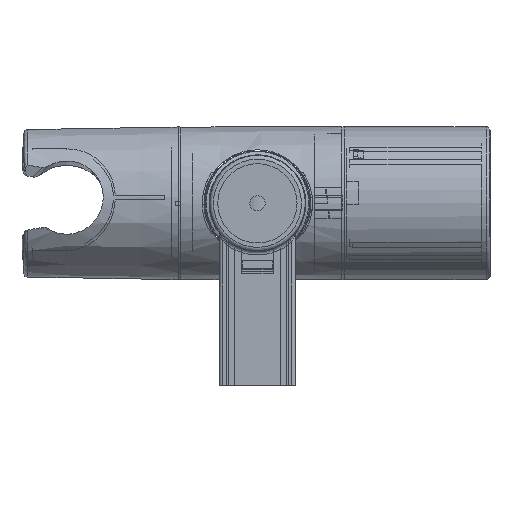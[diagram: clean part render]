
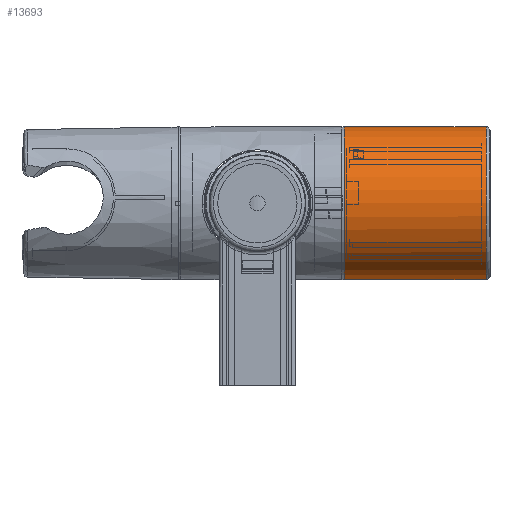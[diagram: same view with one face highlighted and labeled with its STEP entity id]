
A CAD part, front view. The second image highlights one B-rep face of the part: STEP entity #13693.
In plain terms, the highlighted cylindrical face has radius 20 mm (diameter 40 mm), a full revolution.
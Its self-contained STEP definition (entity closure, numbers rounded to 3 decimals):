
#319=B_SPLINE_CURVE_WITH_KNOTS('',3,(#30586,#30587,#30588,#30589,#30590,
#30591,#30592,#30593,#30594,#30595,#30596,#30597,#30598,#30599,#30600,#30601,
#30602,#30603,#30604),.UNSPECIFIED.,.F.,.F.,(4,2,2,2,3,2,2,2,4),(2.5,
2.708,2.917,3.125,3.333,3.542,
3.75,3.958,4.167),.UNSPECIFIED.);
#320=B_SPLINE_CURVE_WITH_KNOTS('',3,(#30605,#30606,#30607,#30608,#30609,
#30610,#30611,#30612,#30613,#30614,#30615,#30616,#30617,#30618,#30619,#30620,
#30621,#30622),.UNSPECIFIED.,.F.,.F.,(4,2,2,2,2,2,2,2,4),(4.167,
4.375,4.583,4.792,5.,5.209,
5.417,5.625,5.834),.UNSPECIFIED.);
#1389=LINE('',#30580,#2524);
#2524=VECTOR('',#18536,20.);
#2844=CYLINDRICAL_SURFACE('',#15021,20.);
#2942=FACE_BOUND('',#4406,.T.);
#3585=FACE_OUTER_BOUND('',#4405,.T.);
#4405=EDGE_LOOP('',(#11995,#11996,#11997,#11998,#11999));
#4406=EDGE_LOOP('',(#12000,#12001));
#5090=CIRCLE('',#15022,20.);
#5091=CIRCLE('',#15023,20.);
#5092=CIRCLE('',#15024,20.);
#6313=VERTEX_POINT('',#30577);
#6314=VERTEX_POINT('',#30579);
#6315=VERTEX_POINT('',#30581);
#6316=VERTEX_POINT('',#30584);
#6317=VERTEX_POINT('',#30585);
#8242=EDGE_CURVE('',#6313,#6313,#5090,.T.);
#8243=EDGE_CURVE('',#6313,#6314,#1389,.T.);
#8244=EDGE_CURVE('',#6315,#6314,#5091,.T.);
#8245=EDGE_CURVE('',#6314,#6315,#5092,.T.);
#8246=EDGE_CURVE('',#6316,#6317,#319,.T.);
#8247=EDGE_CURVE('',#6317,#6316,#320,.T.);
#11995=ORIENTED_EDGE('',*,*,#8242,.F.);
#11996=ORIENTED_EDGE('',*,*,#8243,.T.);
#11997=ORIENTED_EDGE('',*,*,#8244,.F.);
#11998=ORIENTED_EDGE('',*,*,#8245,.F.);
#11999=ORIENTED_EDGE('',*,*,#8243,.F.);
#12000=ORIENTED_EDGE('',*,*,#8246,.F.);
#12001=ORIENTED_EDGE('',*,*,#8247,.F.);
#13693=ADVANCED_FACE('',(#3585,#2942),#2844,.T.);
#15021=AXIS2_PLACEMENT_3D('',#30576,#18532,#18533);
#15022=AXIS2_PLACEMENT_3D('',#30578,#18534,#18535);
#15023=AXIS2_PLACEMENT_3D('',#30582,#18537,#18538);
#15024=AXIS2_PLACEMENT_3D('',#30583,#18539,#18540);
#18532=DIRECTION('center_axis',(-1.,0.,0.));
#18533=DIRECTION('ref_axis',(0.,0.,
-1.));
#18534=DIRECTION('center_axis',(-1.,0.,0.));
#18535=DIRECTION('ref_axis',(0.,0.,
1.));
#18536=DIRECTION('',(1.,0.,0.));
#18537=DIRECTION('center_axis',(1.,0.,0.));
#18538=DIRECTION('ref_axis',(0.,0.,
-1.));
#18539=DIRECTION('center_axis',(1.,0.,0.));
#18540=DIRECTION('ref_axis',(0.,0.,
-1.));
#30576=CARTESIAN_POINT('Origin',(25.65,124.5,36.95));
#30577=CARTESIAN_POINT('',(-14.25,124.5,56.95));
#30578=CARTESIAN_POINT('Origin',(-14.25,124.5,36.95));
#30579=CARTESIAN_POINT('',(22.75,124.5,56.95));
#30580=CARTESIAN_POINT('',(25.65,124.5,56.95));
#30581=CARTESIAN_POINT('',(22.75,124.649,56.949));
#30582=CARTESIAN_POINT('Origin',(22.75,124.5,36.95));
#30583=CARTESIAN_POINT('Origin',(22.75,124.5,36.95));
#30584=CARTESIAN_POINT('',(20.25,144.473,37.997));
#30585=CARTESIAN_POINT('',(9.25,144.473,37.997));
#30586=CARTESIAN_POINT('Ctrl Pts',(20.25,144.473,37.997));
#30587=CARTESIAN_POINT('Ctrl Pts',(20.25,144.509,37.303));
#30588=CARTESIAN_POINT('Ctrl Pts',(20.11,144.508,36.564));
#30589=CARTESIAN_POINT('Ctrl Pts',(19.548,144.435,35.204));
#30590=CARTESIAN_POINT('Ctrl Pts',(19.125,144.366,34.584));
#30591=CARTESIAN_POINT('Ctrl Pts',(18.153,144.224,33.602));
#30592=CARTESIAN_POINT('Ctrl Pts',(17.537,144.143,33.175));
#30593=CARTESIAN_POINT('Ctrl Pts',(16.183,144.025,32.605));
#30594=CARTESIAN_POINT('Ctrl Pts',(15.445,143.99,32.464));
#30595=CARTESIAN_POINT('Ctrl Pts',(14.75,143.99,32.464));
#30596=CARTESIAN_POINT('Ctrl Pts',(14.055,143.99,32.464));
#30597=CARTESIAN_POINT('Ctrl Pts',(13.317,144.025,32.605));
#30598=CARTESIAN_POINT('Ctrl Pts',(11.963,144.143,33.175));
#30599=CARTESIAN_POINT('Ctrl Pts',(11.347,144.224,33.602));
#30600=CARTESIAN_POINT('Ctrl Pts',(10.375,144.366,34.584));
#30601=CARTESIAN_POINT('Ctrl Pts',(9.952,144.435,35.204));
#30602=CARTESIAN_POINT('Ctrl Pts',(9.39,144.508,36.564));
#30603=CARTESIAN_POINT('Ctrl Pts',(9.25,144.509,37.303));
#30604=CARTESIAN_POINT('Ctrl Pts',(9.25,144.473,37.997));
#30605=CARTESIAN_POINT('Ctrl Pts',(9.25,144.473,37.997));
#30606=CARTESIAN_POINT('Ctrl Pts',(9.25,144.436,38.69));
#30607=CARTESIAN_POINT('Ctrl Pts',(9.39,144.358,39.425));
#30608=CARTESIAN_POINT('Ctrl Pts',(9.952,144.144,40.77));
#30609=CARTESIAN_POINT('Ctrl Pts',(10.375,144.01,41.38));
#30610=CARTESIAN_POINT('Ctrl Pts',(11.347,143.766,42.341));
#30611=CARTESIAN_POINT('Ctrl Pts',(11.963,143.64,42.758));
#30612=CARTESIAN_POINT('Ctrl Pts',(13.317,143.463,43.312));
#30613=CARTESIAN_POINT('Ctrl Pts',(14.055,143.415,43.449));
#30614=CARTESIAN_POINT('Ctrl Pts',(15.445,143.415,43.449));
#30615=CARTESIAN_POINT('Ctrl Pts',(16.183,143.463,43.312));
#30616=CARTESIAN_POINT('Ctrl Pts',(17.537,143.64,42.758));
#30617=CARTESIAN_POINT('Ctrl Pts',(18.153,143.766,42.341));
#30618=CARTESIAN_POINT('Ctrl Pts',(19.125,144.01,41.38));
#30619=CARTESIAN_POINT('Ctrl Pts',(19.548,144.144,40.77));
#30620=CARTESIAN_POINT('Ctrl Pts',(20.11,144.358,39.425));
#30621=CARTESIAN_POINT('Ctrl Pts',(20.25,144.436,38.69));
#30622=CARTESIAN_POINT('Ctrl Pts',(20.25,144.473,37.997));
